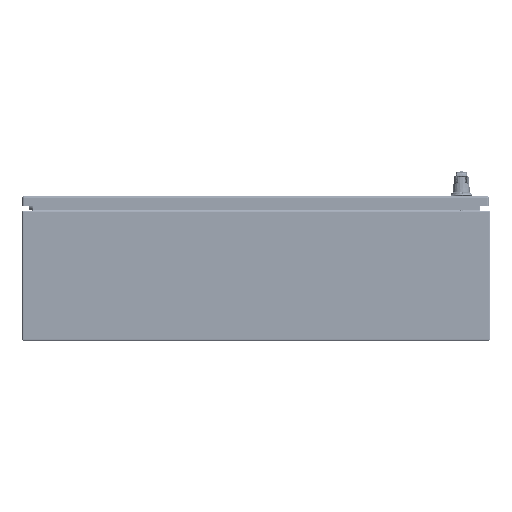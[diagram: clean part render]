
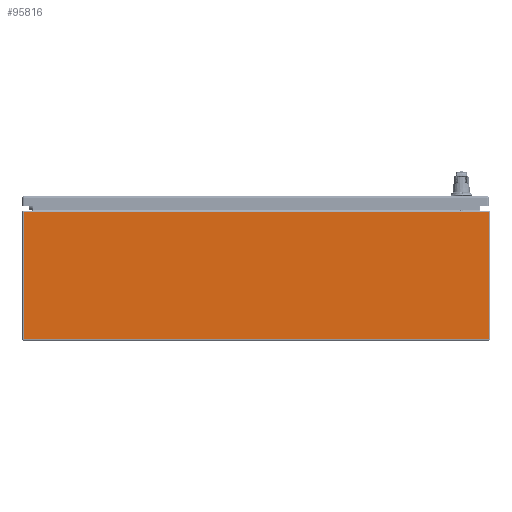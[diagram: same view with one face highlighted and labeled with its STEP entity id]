
A CAD part, front view. The second image highlights one B-rep face of the part: STEP entity #95816.
In plain terms, the highlighted planar face has unit normal (0, -1, 0).
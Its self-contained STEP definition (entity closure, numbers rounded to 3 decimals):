
#8486=LINE('',#136488,#14737);
#8489=LINE('',#136510,#14740);
#8490=LINE('',#136512,#14741);
#8491=LINE('',#136513,#14742);
#14737=VECTOR('',#112021,0.394);
#14740=VECTOR('',#112052,0.394);
#14741=VECTOR('',#112053,0.394);
#14742=VECTOR('',#112054,0.394);
#22571=FACE_OUTER_BOUND('',#28470,.T.);
#28470=EDGE_LOOP('',(#64076,#64077,#64078,#64079));
#39139=VERTEX_POINT('',#136477);
#39142=VERTEX_POINT('',#136487);
#39147=VERTEX_POINT('',#136509);
#39148=VERTEX_POINT('',#136511);
#48807=EDGE_CURVE('',#39139,#39142,#8486,.T.);
#48818=EDGE_CURVE('',#39147,#39139,#8489,.T.);
#48819=EDGE_CURVE('',#39147,#39148,#8490,.T.);
#48820=EDGE_CURVE('',#39142,#39148,#8491,.T.);
#64076=ORIENTED_EDGE('',*,*,#48807,.F.);
#64077=ORIENTED_EDGE('',*,*,#48818,.F.);
#64078=ORIENTED_EDGE('',*,*,#48819,.T.);
#64079=ORIENTED_EDGE('',*,*,#48820,.F.);
#93882=PLANE('',#102841);
#95816=ADVANCED_FACE('',(#22571),#93882,.T.);
#102841=AXIS2_PLACEMENT_3D('',#136508,#112050,#112051);
#112021=DIRECTION('',(1.,0.,0.));
#112050=DIRECTION('center_axis',(0.,-1.,0.));
#112051=DIRECTION('ref_axis',(-1.,0.,0.));
#112052=DIRECTION('',(0.,0.,1.));
#112053=DIRECTION('',(1.,0.,0.));
#112054=DIRECTION('',(0.,0.,-1.));
#136477=CARTESIAN_POINT('',(-17.901,-24.,9.901));
#136487=CARTESIAN_POINT('',(17.901,-24.,9.901));
#136488=CARTESIAN_POINT('',(0.025,-24.,9.901));
#136508=CARTESIAN_POINT('Origin',(18.,-24.,10.));
#136509=CARTESIAN_POINT('',(-17.901,-24.,0.099));
#136510=CARTESIAN_POINT('',(-17.901,-24.,5.));
#136511=CARTESIAN_POINT('',(17.901,-24.,0.099));
#136512=CARTESIAN_POINT('',(-8.951,-24.,0.099));
#136513=CARTESIAN_POINT('',(17.901,-24.,5.));
